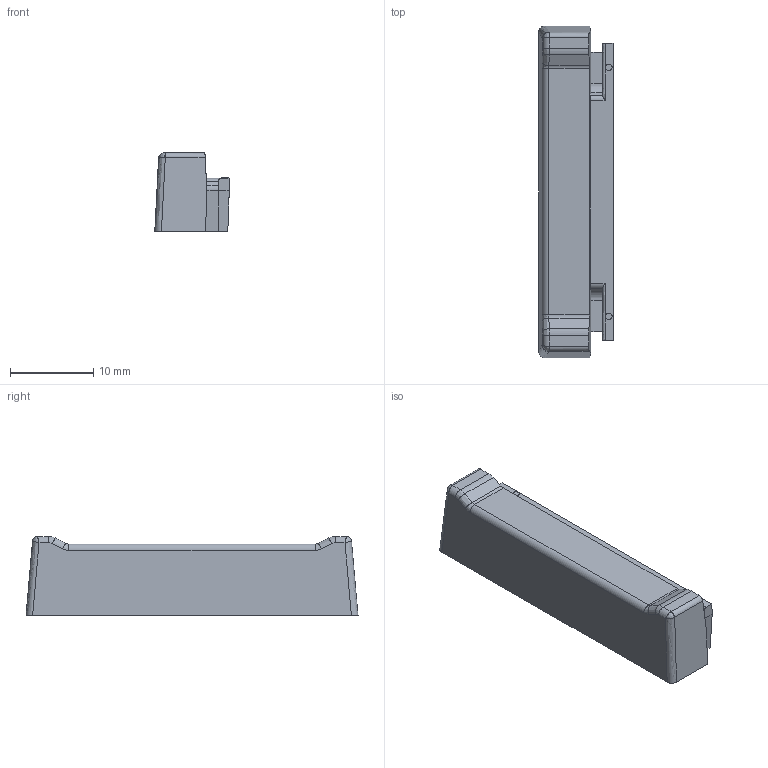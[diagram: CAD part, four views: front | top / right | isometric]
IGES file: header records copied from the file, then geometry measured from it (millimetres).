
Start section: START RECORD GO HERE.
Global section: file name: F15857_LINNEA-END-FS Mechanical model.igs; native system: DASSAULT SYSTEMES CATIA Version 5-6 Release 2013 - www.3ds.com; preprocessor: V5-6R2013_5.23.4.0.01-30-2014.20.00; author: jouko.kotitalo; organization: LEDIL; date: 20170216.155902; units: millimetre
Bounding box: 8.97 x 40 x 9.5 mm (x, y, z)
Surface area: 1802.4 mm2 (no closed solid volume)
Topology: 0 solids, 0 shells, 120 faces, 606 edges, 604 vertices
Faces by surface type: revolution 52, plane 44, bspline 24
